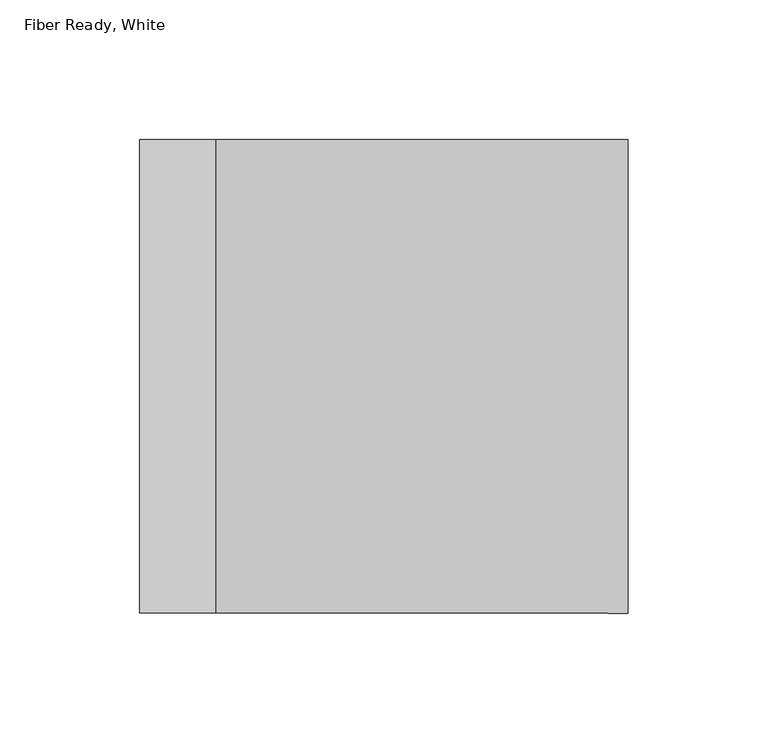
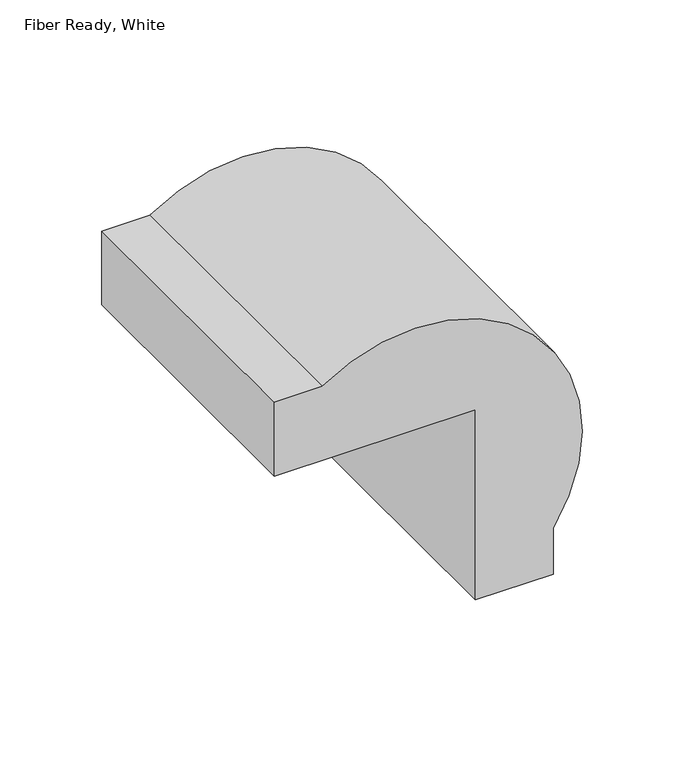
"""IFC4 building model written with IfcOpenShell, lengths in millimetres: proxy geometry, Elbow-5500_Series-Wiremold-External : Fiber Ready, White."""

from ifc_helpers import new_model, si_unit, point, frame, frame_2d, origin, place, context, project, spatial, polyline, circle_curve, trimmed, segment, composite_curve, outline, extrude, source, transform, mapped, element, save


def fiber_ready_white_dd5d93b4(model_context):
    return source(origin(), model_context, "Body", "SweptSolid", [
        extrude(outline(composite_curve([segment(polyline([(44.45, -86.8891625), (44.45, -114.3), (0.0, -114.3), (0.0, 0.0), (-114.3, 0.0), (-114.3, 44.45), (-86.8891625, 44.45)]), True, "CONTINUOUS"), segment(trimmed(circle_curve(frame_2d((-33.528, -33.528)), 94.488), [point((-86.8891625, 44.45))], [point((44.45, -86.8891625))], False, "CARTESIAN"), True, "CONTINUOUS")], self_intersect=False)), frame((0.0, -84.9376, 0.0), z_axis=(0.0, 1.0, 0.0), x_axis=(0.0, 0.0, 1.0)), (0.0, 0.0, 1.0), 169.8752),
    ])


if __name__ == "__main__":
    model = new_model("IFC4")
    model_context = context("Model", 3, world=origin())
    ifc_project = project(units=[si_unit("LENGTHUNIT", "METRE", prefix="MILLI")], contexts=[model_context])
    site = spatial("IfcSite", under=ifc_project)
    building = spatial("IfcBuilding", under=site)
    placement = place(None, origin())
    fiber_ready_white_shape = fiber_ready_white_dd5d93b4(model_context)
    element("IfcBuildingElementProxy", 1, Name="Elbow-5500_Series-Wiremold-External : Fiber Ready, White", ObjectType="Elbow-5500_Series-Wiremold-External : Fiber Ready, White", at=placement, inside=building, context=model_context, shape_type="MappedRepresentation", body=[
        mapped(fiber_ready_white_shape, transform((0.0, 0.0, 0.0), x_axis=(1.0, 0.0, 0.0), y_axis=(0.0, 1.0, 0.0), z_axis=(0.0, 0.0, 1.0))),
    ])
    save(model, "model.ifc")
